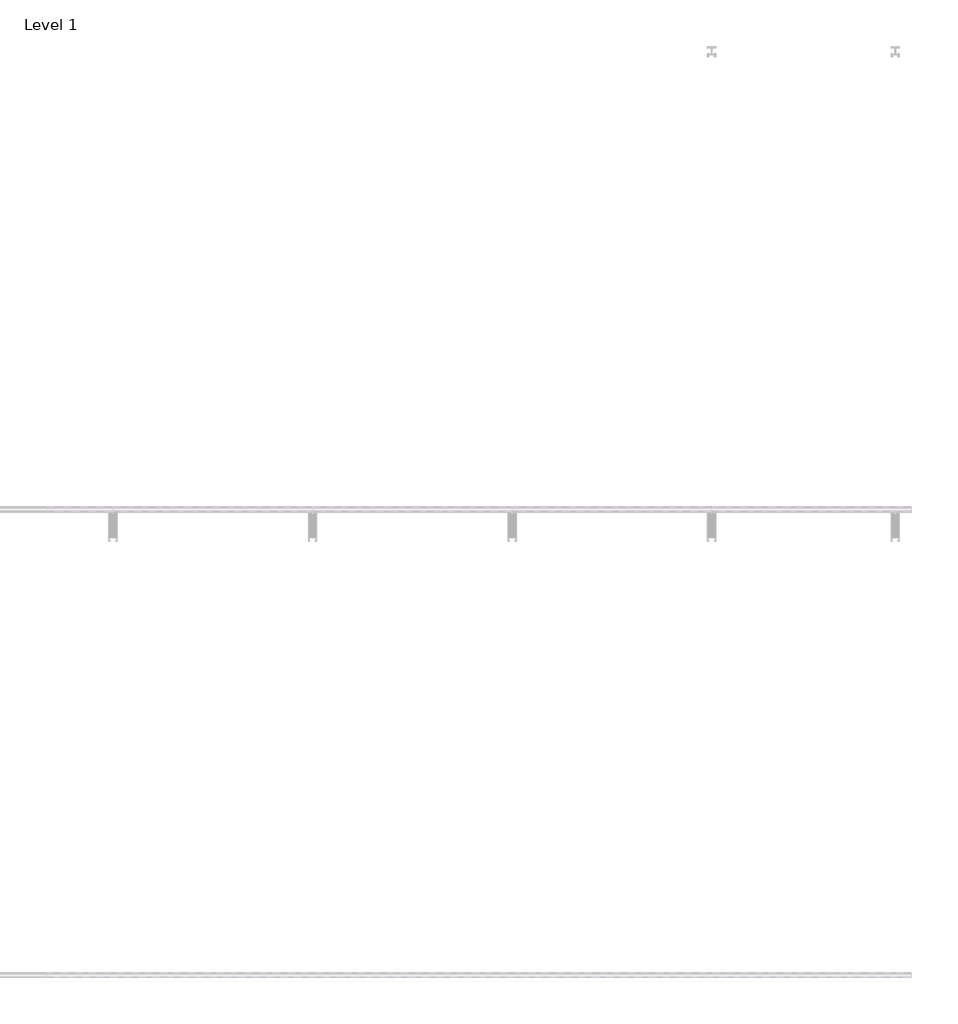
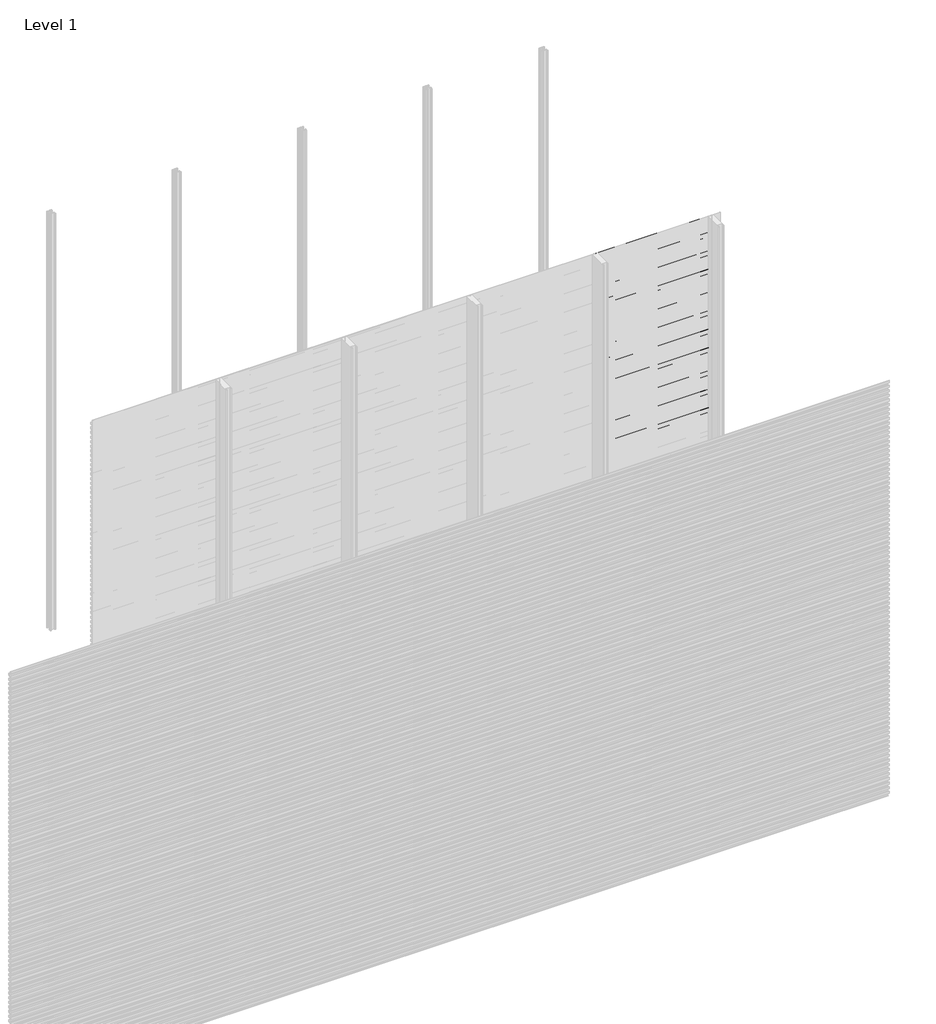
# One storey, part 21 of 96: 77 proxies.
"""IFC4 building model written with IfcOpenShell, lengths in millimetres."""

from ifc_helpers import new_model, si_unit, frame, origin, place, context, project, spatial, polyline, outline, extrude, element, save

model = new_model("IFC4")

# Units and contexts
model_context = context("Model", 3, world=origin())
ifc_project = project(units=[si_unit("LENGTHUNIT", "METRE", prefix="MILLI")], contexts=[model_context])

# Site, building, storey
site = spatial("IfcSite", under=ifc_project)
building = spatial("IfcBuilding", under=site)
storey = spatial("IfcBuildingStorey", under=building, Name="Level 1", Elevation=0.0)

# Proxies
placement = place(None, origin())
element("IfcBuildingElementProxy", 1, Name="Wall Sweeps", at=placement, inside=storey, context=model_context, shape_type="SweptSolid", body=[
    extrude(outline(polyline([(-47977.6, 1073.6655033), (-47977.6, 1059.3779188), (-47982.4114965, 1056.6), (-47982.4114965, 1057.8701706), (-47978.85, 1059.9264016), (-47978.85, 1072.9437382), (-47998.0, 1084.0000799), (-47998.0, 1098.9), (-47996.75, 1098.9), (-47996.75, 1084.7217609), (-47977.6, 1073.6655033)])), frame((4285.7142857, 0.0, 0.0), z_axis=(1.0, 0.0, 0.0), x_axis=(0.0, 1.0, 0.0)), (0.0, 0.0, 1.0), 857.1428571),
])
element("IfcBuildingElementProxy", 2, Name="Wall Sweeps", at=placement, inside=storey, context=model_context, shape_type="SweptSolid", body=[
    extrude(outline(polyline([(-47977.6, 1040.3655033), (-47977.6, 1026.0779188), (-47982.4114965, 1023.3), (-47982.4114965, 1024.5701706), (-47978.85, 1026.6264016), (-47978.85, 1039.6437382), (-47998.0, 1050.7000799), (-47998.0, 1065.6), (-47996.75, 1065.6), (-47996.75, 1051.4217609), (-47977.6, 1040.3655033)])), frame((4285.7142857, 0.0, 0.0), z_axis=(1.0, 0.0, 0.0), x_axis=(0.0, 1.0, 0.0)), (0.0, 0.0, 1.0), 857.1428571),
])
element("IfcBuildingElementProxy", 3, Name="Wall Sweeps", at=placement, inside=storey, context=model_context, shape_type="SweptSolid", body=[
    extrude(outline(polyline([(-47977.6, 1007.0655033), (-47977.6, 992.7779188), (-47982.4114965, 990.0), (-47982.4114965, 991.2701706), (-47978.85, 993.3264016), (-47978.85, 1006.3437382), (-47998.0, 1017.4000799), (-47998.0, 1032.3), (-47996.75, 1032.3), (-47996.75, 1018.1217609), (-47977.6, 1007.0655033)])), frame((4285.7142857, 0.0, 0.0), z_axis=(1.0, 0.0, 0.0), x_axis=(0.0, 1.0, 0.0)), (0.0, 0.0, 1.0), 857.1428571),
])
element("IfcBuildingElementProxy", 4, Name="Wall Sweeps", at=placement, inside=storey, context=model_context, shape_type="SweptSolid", body=[
    extrude(outline(polyline([(-47977.6, 973.7655033), (-47977.6, 959.4779188), (-47982.4114965, 956.7), (-47982.4114965, 957.9701706), (-47978.85, 960.0264016), (-47978.85, 973.0437382), (-47998.0, 984.1000799), (-47998.0, 999.0), (-47996.75, 999.0), (-47996.75, 984.8217609), (-47977.6, 973.7655033)])), frame((4285.7142857, 0.0, 0.0), z_axis=(1.0, 0.0, 0.0), x_axis=(0.0, 1.0, 0.0)), (0.0, 0.0, 1.0), 857.1428571),
])
element("IfcBuildingElementProxy", 5, Name="Wall Sweeps", at=placement, inside=storey, context=model_context, shape_type="SweptSolid", body=[
    extrude(outline(polyline([(-47977.6, 940.4655033), (-47977.6, 926.1779188), (-47982.4114965, 923.4), (-47982.4114965, 924.6701706), (-47978.85, 926.7264016), (-47978.85, 939.7437382), (-47998.0, 950.8000799), (-47998.0, 965.7), (-47996.75, 965.7), (-47996.75, 951.5217609), (-47977.6, 940.4655033)])), frame((4285.7142857, 0.0, 0.0), z_axis=(1.0, 0.0, 0.0), x_axis=(0.0, 1.0, 0.0)), (0.0, 0.0, 1.0), 857.1428571),
])
element("IfcBuildingElementProxy", 6, Name="Wall Sweeps", at=placement, inside=storey, context=model_context, shape_type="SweptSolid", body=[
    extrude(outline(polyline([(-47977.6, 907.1655033), (-47977.6, 892.8779188), (-47982.4114965, 890.1), (-47982.4114965, 891.3701706), (-47978.85, 893.4264016), (-47978.85, 906.4437382), (-47998.0, 917.5000799), (-47998.0, 932.4), (-47996.75, 932.4), (-47996.75, 918.2217609), (-47977.6, 907.1655033)])), frame((4285.7142857, 0.0, 0.0), z_axis=(1.0, 0.0, 0.0), x_axis=(0.0, 1.0, 0.0)), (0.0, 0.0, 1.0), 857.1428571),
])
element("IfcBuildingElementProxy", 7, Name="Wall Sweeps", at=placement, inside=storey, context=model_context, shape_type="SweptSolid", body=[
    extrude(outline(polyline([(-47977.6, 873.8655033), (-47977.6, 859.5779188), (-47982.4114965, 856.8), (-47982.4114965, 858.0701706), (-47978.85, 860.1264016), (-47978.85, 873.1437382), (-47998.0, 884.2000799), (-47998.0, 899.1), (-47996.75, 899.1), (-47996.75, 884.9217609), (-47977.6, 873.8655033)])), frame((4285.7142857, 0.0, 0.0), z_axis=(1.0, 0.0, 0.0), x_axis=(0.0, 1.0, 0.0)), (0.0, 0.0, 1.0), 857.1428571),
])
element("IfcBuildingElementProxy", 8, Name="Wall Sweeps", at=placement, inside=storey, context=model_context, shape_type="SweptSolid", body=[
    extrude(outline(polyline([(-47977.6, 840.5655033), (-47977.6, 826.2779188), (-47982.4114965, 823.5), (-47982.4114965, 824.7701706), (-47978.85, 826.8264016), (-47978.85, 839.8437382), (-47998.0, 850.9000799), (-47998.0, 865.8), (-47996.75, 865.8), (-47996.75, 851.6217609), (-47977.6, 840.5655033)])), frame((4285.7142857, 0.0, 0.0), z_axis=(1.0, 0.0, 0.0), x_axis=(0.0, 1.0, 0.0)), (0.0, 0.0, 1.0), 857.1428571),
])
element("IfcBuildingElementProxy", 9, Name="Wall Sweeps", at=placement, inside=storey, context=model_context, shape_type="SweptSolid", body=[
    extrude(outline(polyline([(-47977.6, 807.2655033), (-47977.6, 792.9779188), (-47982.4114965, 790.2), (-47982.4114965, 791.4701706), (-47978.85, 793.5264016), (-47978.85, 806.5437382), (-47998.0, 817.6000799), (-47998.0, 832.5), (-47996.75, 832.5), (-47996.75, 818.3217609), (-47977.6, 807.2655033)])), frame((4285.7142857, 0.0, 0.0), z_axis=(1.0, 0.0, 0.0), x_axis=(0.0, 1.0, 0.0)), (0.0, 0.0, 1.0), 857.1428571),
])
element("IfcBuildingElementProxy", 10, Name="Wall Sweeps", at=placement, inside=storey, context=model_context, shape_type="SweptSolid", body=[
    extrude(outline(polyline([(-47977.6, 773.9655033), (-47977.6, 759.6779188), (-47982.4114965, 756.9), (-47982.4114965, 758.1701706), (-47978.85, 760.2264016), (-47978.85, 773.2437382), (-47998.0, 784.3000799), (-47998.0, 799.2), (-47996.75, 799.2), (-47996.75, 785.0217609), (-47977.6, 773.9655033)])), frame((4285.7142857, 0.0, 0.0), z_axis=(1.0, 0.0, 0.0), x_axis=(0.0, 1.0, 0.0)), (0.0, 0.0, 1.0), 857.1428571),
])
element("IfcBuildingElementProxy", 11, Name="Wall Sweeps", at=placement, inside=storey, context=model_context, shape_type="SweptSolid", body=[
    extrude(outline(polyline([(-47977.6, 740.6655033), (-47977.6, 726.3779188), (-47982.4114965, 723.6), (-47982.4114965, 724.8701706), (-47978.85, 726.9264016), (-47978.85, 739.9437382), (-47998.0, 751.0000799), (-47998.0, 765.9), (-47996.75, 765.9), (-47996.75, 751.7217609), (-47977.6, 740.6655033)])), frame((4285.7142857, 0.0, 0.0), z_axis=(1.0, 0.0, 0.0), x_axis=(0.0, 1.0, 0.0)), (0.0, 0.0, 1.0), 857.1428571),
])
element("IfcBuildingElementProxy", 12, Name="Wall Sweeps", at=placement, inside=storey, context=model_context, shape_type="SweptSolid", body=[
    extrude(outline(polyline([(-47977.6, 707.3655033), (-47977.6, 693.0779188), (-47982.4114965, 690.3), (-47982.4114965, 691.5701706), (-47978.85, 693.6264016), (-47978.85, 706.6437382), (-47998.0, 717.7000799), (-47998.0, 732.6), (-47996.75, 732.6), (-47996.75, 718.4217609), (-47977.6, 707.3655033)])), frame((4285.7142857, 0.0, 0.0), z_axis=(1.0, 0.0, 0.0), x_axis=(0.0, 1.0, 0.0)), (0.0, 0.0, 1.0), 857.1428571),
])
element("IfcBuildingElementProxy", 13, Name="Wall Sweeps", at=placement, inside=storey, context=model_context, shape_type="SweptSolid", body=[
    extrude(outline(polyline([(-47977.6, 674.0655033), (-47977.6, 659.7779188), (-47982.4114965, 657.0), (-47982.4114965, 658.2701706), (-47978.85, 660.3264016), (-47978.85, 673.3437382), (-47998.0, 684.4000799), (-47998.0, 699.3), (-47996.75, 699.3), (-47996.75, 685.1217609), (-47977.6, 674.0655033)])), frame((4285.7142857, 0.0, 0.0), z_axis=(1.0, 0.0, 0.0), x_axis=(0.0, 1.0, 0.0)), (0.0, 0.0, 1.0), 857.1428571),
])
element("IfcBuildingElementProxy", 14, Name="Wall Sweeps", at=placement, inside=storey, context=model_context, shape_type="SweptSolid", body=[
    extrude(outline(polyline([(-47977.6, 640.7655033), (-47977.6, 626.4779188), (-47982.4114965, 623.7), (-47982.4114965, 624.9701706), (-47978.85, 627.0264016), (-47978.85, 640.0437382), (-47998.0, 651.1000799), (-47998.0, 666.0), (-47996.75, 666.0), (-47996.75, 651.8217609), (-47977.6, 640.7655033)])), frame((4285.7142857, 0.0, 0.0), z_axis=(1.0, 0.0, 0.0), x_axis=(0.0, 1.0, 0.0)), (0.0, 0.0, 1.0), 857.1428571),
])
element("IfcBuildingElementProxy", 15, Name="Wall Sweeps", at=placement, inside=storey, context=model_context, shape_type="SweptSolid", body=[
    extrude(outline(polyline([(-47977.6, 607.4655033), (-47977.6, 593.1779188), (-47982.4114965, 590.4), (-47982.4114965, 591.6701706), (-47978.85, 593.7264016), (-47978.85, 606.7437382), (-47998.0, 617.8000799), (-47998.0, 632.7), (-47996.75, 632.7), (-47996.75, 618.5217609), (-47977.6, 607.4655033)])), frame((4285.7142857, 0.0, 0.0), z_axis=(1.0, 0.0, 0.0), x_axis=(0.0, 1.0, 0.0)), (0.0, 0.0, 1.0), 857.1428571),
])
element("IfcBuildingElementProxy", 16, Name="Wall Sweeps", at=placement, inside=storey, context=model_context, shape_type="SweptSolid", body=[
    extrude(outline(polyline([(-47977.6, 574.1655033), (-47977.6, 559.8779188), (-47982.4114965, 557.1), (-47982.4114965, 558.3701706), (-47978.85, 560.4264016), (-47978.85, 573.4437382), (-47998.0, 584.5000799), (-47998.0, 599.4), (-47996.75, 599.4), (-47996.75, 585.2217609), (-47977.6, 574.1655033)])), frame((4285.7142857, 0.0, 0.0), z_axis=(1.0, 0.0, 0.0), x_axis=(0.0, 1.0, 0.0)), (0.0, 0.0, 1.0), 857.1428571),
])
element("IfcBuildingElementProxy", 17, Name="Wall Sweeps", at=placement, inside=storey, context=model_context, shape_type="SweptSolid", body=[
    extrude(outline(polyline([(-47977.6, 540.8655033), (-47977.6, 526.5779188), (-47982.4114965, 523.8), (-47982.4114965, 525.0701706), (-47978.85, 527.1264016), (-47978.85, 540.1437382), (-47998.0, 551.2000799), (-47998.0, 566.1), (-47996.75, 566.1), (-47996.75, 551.9217609), (-47977.6, 540.8655033)])), frame((4285.7142857, 0.0, 0.0), z_axis=(1.0, 0.0, 0.0), x_axis=(0.0, 1.0, 0.0)), (0.0, 0.0, 1.0), 857.1428571),
])
element("IfcBuildingElementProxy", 18, Name="Wall Sweeps", at=placement, inside=storey, context=model_context, shape_type="SweptSolid", body=[
    extrude(outline(polyline([(-47977.6, 507.5655033), (-47977.6, 493.2779188), (-47982.4114965, 490.5), (-47982.4114965, 491.7701706), (-47978.85, 493.8264016), (-47978.85, 506.8437382), (-47998.0, 517.9000799), (-47998.0, 532.8), (-47996.75, 532.8), (-47996.75, 518.6217609), (-47977.6, 507.5655033)])), frame((4285.7142857, 0.0, 0.0), z_axis=(1.0, 0.0, 0.0), x_axis=(0.0, 1.0, 0.0)), (0.0, 0.0, 1.0), 857.1428571),
])
element("IfcBuildingElementProxy", 19, Name="Wall Sweeps", at=placement, inside=storey, context=model_context, shape_type="SweptSolid", body=[
    extrude(outline(polyline([(-47977.6, 474.2655033), (-47977.6, 459.9779188), (-47982.4114965, 457.2), (-47982.4114965, 458.4701706), (-47978.85, 460.5264016), (-47978.85, 473.5437382), (-47998.0, 484.6000799), (-47998.0, 499.5), (-47996.75, 499.5), (-47996.75, 485.3217609), (-47977.6, 474.2655033)])), frame((4285.7142857, 0.0, 0.0), z_axis=(1.0, 0.0, 0.0), x_axis=(0.0, 1.0, 0.0)), (0.0, 0.0, 1.0), 857.1428571),
])
element("IfcBuildingElementProxy", 20, Name="Wall Sweeps", at=placement, inside=storey, context=model_context, shape_type="SweptSolid", body=[
    extrude(outline(polyline([(-47977.6, 440.9655033), (-47977.6, 426.6779188), (-47982.4114965, 423.9), (-47982.4114965, 425.1701706), (-47978.85, 427.2264016), (-47978.85, 440.2437382), (-47998.0, 451.3000799), (-47998.0, 466.2), (-47996.75, 466.2), (-47996.75, 452.0217609), (-47977.6, 440.9655033)])), frame((4285.7142857, 0.0, 0.0), z_axis=(1.0, 0.0, 0.0), x_axis=(0.0, 1.0, 0.0)), (0.0, 0.0, 1.0), 857.1428571),
])
element("IfcBuildingElementProxy", 21, Name="Wall Sweeps", at=placement, inside=storey, context=model_context, shape_type="SweptSolid", body=[
    extrude(outline(polyline([(-47977.6, 407.6655033), (-47977.6, 393.3779188), (-47982.4114965, 390.6), (-47982.4114965, 391.8701706), (-47978.85, 393.9264016), (-47978.85, 406.9437382), (-47998.0, 418.0000799), (-47998.0, 432.9), (-47996.75, 432.9), (-47996.75, 418.7217609), (-47977.6, 407.6655033)])), frame((4285.7142857, 0.0, 0.0), z_axis=(1.0, 0.0, 0.0), x_axis=(0.0, 1.0, 0.0)), (0.0, 0.0, 1.0), 857.1428571),
])
element("IfcBuildingElementProxy", 22, Name="Wall Sweeps", at=placement, inside=storey, context=model_context, shape_type="SweptSolid", body=[
    extrude(outline(polyline([(-47977.6, 374.3655033), (-47977.6, 360.0779188), (-47982.4114965, 357.3), (-47982.4114965, 358.5701706), (-47978.85, 360.6264016), (-47978.85, 373.6437382), (-47998.0, 384.7000799), (-47998.0, 399.6), (-47996.75, 399.6), (-47996.75, 385.4217609), (-47977.6, 374.3655033)])), frame((4285.7142857, 0.0, 0.0), z_axis=(1.0, 0.0, 0.0), x_axis=(0.0, 1.0, 0.0)), (0.0, 0.0, 1.0), 857.1428571),
])
element("IfcBuildingElementProxy", 23, Name="Wall Sweeps", at=placement, inside=storey, context=model_context, shape_type="SweptSolid", body=[
    extrude(outline(polyline([(-47977.6, 341.0655033), (-47977.6, 326.7779188), (-47982.4114965, 324.0), (-47982.4114965, 325.2701706), (-47978.85, 327.3264016), (-47978.85, 340.3437382), (-47998.0, 351.4000799), (-47998.0, 366.3), (-47996.75, 366.3), (-47996.75, 352.1217609), (-47977.6, 341.0655033)])), frame((4285.7142857, 0.0, 0.0), z_axis=(1.0, 0.0, 0.0), x_axis=(0.0, 1.0, 0.0)), (0.0, 0.0, 1.0), 857.1428571),
])
element("IfcBuildingElementProxy", 24, Name="Wall Sweeps", at=placement, inside=storey, context=model_context, shape_type="SweptSolid", body=[
    extrude(outline(polyline([(-47977.6, 307.7655033), (-47977.6, 293.4779188), (-47982.4114965, 290.7), (-47982.4114965, 291.9701706), (-47978.85, 294.0264016), (-47978.85, 307.0437382), (-47998.0, 318.1000799), (-47998.0, 333.0), (-47996.75, 333.0), (-47996.75, 318.8217609), (-47977.6, 307.7655033)])), frame((4285.7142857, 0.0, 0.0), z_axis=(1.0, 0.0, 0.0), x_axis=(0.0, 1.0, 0.0)), (0.0, 0.0, 1.0), 857.1428571),
])
element("IfcBuildingElementProxy", 25, Name="Wall Sweeps", at=placement, inside=storey, context=model_context, shape_type="SweptSolid", body=[
    extrude(outline(polyline([(-47977.6, 274.4655033), (-47977.6, 260.1779188), (-47982.4114965, 257.4), (-47982.4114965, 258.6701706), (-47978.85, 260.7264016), (-47978.85, 273.7437382), (-47998.0, 284.8000799), (-47998.0, 299.7), (-47996.75, 299.7), (-47996.75, 285.5217609), (-47977.6, 274.4655033)])), frame((4285.7142857, 0.0, 0.0), z_axis=(1.0, 0.0, 0.0), x_axis=(0.0, 1.0, 0.0)), (0.0, 0.0, 1.0), 857.1428571),
])
element("IfcBuildingElementProxy", 26, Name="Wall Sweeps", at=placement, inside=storey, context=model_context, shape_type="SweptSolid", body=[
    extrude(outline(polyline([(-47977.6, 241.1655033), (-47977.6, 226.8779188), (-47982.4114965, 224.1), (-47982.4114965, 225.3701706), (-47978.85, 227.4264016), (-47978.85, 240.4437382), (-47998.0, 251.5000799), (-47998.0, 266.4), (-47996.75, 266.4), (-47996.75, 252.2217609), (-47977.6, 241.1655033)])), frame((4285.7142857, 0.0, 0.0), z_axis=(1.0, 0.0, 0.0), x_axis=(0.0, 1.0, 0.0)), (0.0, 0.0, 1.0), 857.1428571),
])
element("IfcBuildingElementProxy", 27, Name="Wall Sweeps", at=placement, inside=storey, context=model_context, shape_type="SweptSolid", body=[
    extrude(outline(polyline([(-47977.6, 207.8655033), (-47977.6, 193.5779188), (-47982.4114965, 190.8), (-47982.4114965, 192.0701706), (-47978.85, 194.1264016), (-47978.85, 207.1437382), (-47998.0, 218.2000799), (-47998.0, 233.1), (-47996.75, 233.1), (-47996.75, 218.9217609), (-47977.6, 207.8655033)])), frame((4285.7142857, 0.0, 0.0), z_axis=(1.0, 0.0, 0.0), x_axis=(0.0, 1.0, 0.0)), (0.0, 0.0, 1.0), 857.1428571),
])
element("IfcBuildingElementProxy", 28, Name="Wall Sweeps", at=placement, inside=storey, context=model_context, shape_type="SweptSolid", body=[
    extrude(outline(polyline([(-47977.6, 174.5655033), (-47977.6, 160.2779188), (-47982.4114965, 157.5), (-47982.4114965, 158.7701706), (-47978.85, 160.8264016), (-47978.85, 173.8437382), (-47998.0, 184.9000799), (-47998.0, 199.8), (-47996.75, 199.8), (-47996.75, 185.6217609), (-47977.6, 174.5655033)])), frame((4285.7142857, 0.0, 0.0), z_axis=(1.0, 0.0, 0.0), x_axis=(0.0, 1.0, 0.0)), (0.0, 0.0, 1.0), 857.1428571),
])
element("IfcBuildingElementProxy", 29, Name="Wall Sweeps", at=placement, inside=storey, context=model_context, shape_type="SweptSolid", body=[
    extrude(outline(polyline([(-47977.6, 141.2655033), (-47977.6, 126.9779188), (-47982.4114965, 124.2), (-47982.4114965, 125.4701706), (-47978.85, 127.5264016), (-47978.85, 140.5437382), (-47998.0, 151.6000799), (-47998.0, 166.5), (-47996.75, 166.5), (-47996.75, 152.3217609), (-47977.6, 141.2655033)])), frame((4285.7142857, 0.0, 0.0), z_axis=(1.0, 0.0, 0.0), x_axis=(0.0, 1.0, 0.0)), (0.0, 0.0, 1.0), 857.1428571),
])
element("IfcBuildingElementProxy", 30, Name="Wall Sweeps", at=placement, inside=storey, context=model_context, shape_type="SweptSolid", body=[
    extrude(outline(polyline([(-47977.6, 107.9655033), (-47977.6, 93.6779188), (-47982.4114965, 90.9), (-47982.4114965, 92.1701706), (-47978.85, 94.2264016), (-47978.85, 107.2437382), (-47998.0, 118.3000799), (-47998.0, 133.2), (-47996.75, 133.2), (-47996.75, 119.0217609), (-47977.6, 107.9655033)])), frame((4285.7142857, 0.0, 0.0), z_axis=(1.0, 0.0, 0.0), x_axis=(0.0, 1.0, 0.0)), (0.0, 0.0, 1.0), 857.1428571),
])
element("IfcBuildingElementProxy", 31, Name="Wall Sweeps", at=placement, inside=storey, context=model_context, shape_type="SweptSolid", body=[
    extrude(outline(polyline([(-47977.6, 74.6655033), (-47977.6, 60.3779188), (-47982.4114965, 57.6), (-47982.4114965, 58.8701706), (-47978.85, 60.9264016), (-47978.85, 73.9437382), (-47998.0, 85.0000799), (-47998.0, 99.9), (-47996.75, 99.9), (-47996.75, 85.7217609), (-47977.6, 74.6655033)])), frame((4285.7142857, 0.0, 0.0), z_axis=(1.0, 0.0, 0.0), x_axis=(0.0, 1.0, 0.0)), (0.0, 0.0, 1.0), 857.1428571),
])
element("IfcBuildingElementProxy", 32, Name="Wall Sweeps", at=placement, inside=storey, context=model_context, shape_type="SweptSolid", body=[
    extrude(outline(polyline([(-47977.6, 41.3655033), (-47977.6, 27.0779188), (-47982.4114965, 24.3), (-47982.4114965, 25.5701706), (-47978.85, 27.6264016), (-47978.85, 40.6437382), (-47998.0, 51.7000799), (-47998.0, 66.6), (-47996.75, 66.6), (-47996.75, 52.4217609), (-47977.6, 41.3655033)])), frame((4285.7142857, 0.0, 0.0), z_axis=(1.0, 0.0, 0.0), x_axis=(0.0, 1.0, 0.0)), (0.0, 0.0, 1.0), 857.1428571),
])
element("IfcBuildingElementProxy", 33, Name="Wall Sweeps", at=placement, inside=storey, context=model_context, shape_type="SweptSolid", body=[
    extrude(outline(polyline([(-47977.6, 8.0655033), (-47977.6, -6.2220812), (-47982.4114965, -9.0), (-47982.4114965, -7.7298294), (-47978.85, -5.6735984), (-47978.85, 7.3437382), (-47998.0, 18.4000799), (-47998.0, 33.3), (-47996.75, 33.3), (-47996.75, 19.1217609), (-47977.6, 8.0655033)])), frame((4285.7142857, 0.0, 0.0), z_axis=(1.0, 0.0, 0.0), x_axis=(0.0, 1.0, 0.0)), (0.0, 0.0, 1.0), 857.1428571),
])
element("IfcBuildingElementProxy", 34, Name="Wall Sweeps", at=placement, inside=storey, context=model_context, shape_type="SweptSolid", body=[
    extrude(outline(polyline([(-47977.6, 2971.7655033), (-47977.6, 2957.4779188), (-47982.4114965, 2954.7), (-47982.4114965, 2955.9701706), (-47978.85, 2958.0264016), (-47978.85, 2971.0437382), (-47998.0, 2982.1000799), (-47998.0, 2997.0), (-47996.75, 2997.0), (-47996.75, 2982.8217609), (-47977.6, 2971.7655033)])), frame((5142.8571429, 0.0, 0.0), z_axis=(1.0, 0.0, 0.0), x_axis=(0.0, 1.0, 0.0)), (0.0, 0.0, 1.0), 857.1428571),
])
element("IfcBuildingElementProxy", 35, Name="Wall Sweeps", at=placement, inside=storey, context=model_context, shape_type="SweptSolid", body=[
    extrude(outline(polyline([(-47977.6, 2938.4655033), (-47977.6, 2924.1779188), (-47982.4114965, 2921.4), (-47982.4114965, 2922.6701706), (-47978.85, 2924.7264016), (-47978.85, 2937.7437382), (-47998.0, 2948.8000799), (-47998.0, 2963.7), (-47996.75, 2963.7), (-47996.75, 2949.5217609), (-47977.6, 2938.4655033)])), frame((5142.8571429, 0.0, 0.0), z_axis=(1.0, 0.0, 0.0), x_axis=(0.0, 1.0, 0.0)), (0.0, 0.0, 1.0), 857.1428571),
])
element("IfcBuildingElementProxy", 36, Name="Wall Sweeps", at=placement, inside=storey, context=model_context, shape_type="SweptSolid", body=[
    extrude(outline(polyline([(-47977.6, 2905.1655033), (-47977.6, 2890.8779188), (-47982.4114965, 2888.1), (-47982.4114965, 2889.3701706), (-47978.85, 2891.4264016), (-47978.85, 2904.4437382), (-47998.0, 2915.5000799), (-47998.0, 2930.4), (-47996.75, 2930.4), (-47996.75, 2916.2217609), (-47977.6, 2905.1655033)])), frame((5142.8571429, 0.0, 0.0), z_axis=(1.0, 0.0, 0.0), x_axis=(0.0, 1.0, 0.0)), (0.0, 0.0, 1.0), 857.1428571),
])
element("IfcBuildingElementProxy", 37, Name="Wall Sweeps", at=placement, inside=storey, context=model_context, shape_type="SweptSolid", body=[
    extrude(outline(polyline([(-47977.6, 2871.8655033), (-47977.6, 2857.5779188), (-47982.4114965, 2854.8), (-47982.4114965, 2856.0701706), (-47978.85, 2858.1264016), (-47978.85, 2871.1437382), (-47998.0, 2882.2000799), (-47998.0, 2897.1), (-47996.75, 2897.1), (-47996.75, 2882.9217609), (-47977.6, 2871.8655033)])), frame((5142.8571429, 0.0, 0.0), z_axis=(1.0, 0.0, 0.0), x_axis=(0.0, 1.0, 0.0)), (0.0, 0.0, 1.0), 857.1428571),
])
element("IfcBuildingElementProxy", 38, Name="Wall Sweeps", at=placement, inside=storey, context=model_context, shape_type="SweptSolid", body=[
    extrude(outline(polyline([(-47977.6, 2838.5655033), (-47977.6, 2824.2779188), (-47982.4114965, 2821.5), (-47982.4114965, 2822.7701706), (-47978.85, 2824.8264016), (-47978.85, 2837.8437382), (-47998.0, 2848.9000799), (-47998.0, 2863.8), (-47996.75, 2863.8), (-47996.75, 2849.6217609), (-47977.6, 2838.5655033)])), frame((5142.8571429, 0.0, 0.0), z_axis=(1.0, 0.0, 0.0), x_axis=(0.0, 1.0, 0.0)), (0.0, 0.0, 1.0), 857.1428571),
])
element("IfcBuildingElementProxy", 39, Name="Wall Sweeps", at=placement, inside=storey, context=model_context, shape_type="SweptSolid", body=[
    extrude(outline(polyline([(-47977.6, 2805.2655033), (-47977.6, 2790.9779188), (-47982.4114965, 2788.2), (-47982.4114965, 2789.4701706), (-47978.85, 2791.5264016), (-47978.85, 2804.5437382), (-47998.0, 2815.6000799), (-47998.0, 2830.5), (-47996.75, 2830.5), (-47996.75, 2816.3217609), (-47977.6, 2805.2655033)])), frame((5142.8571429, 0.0, 0.0), z_axis=(1.0, 0.0, 0.0), x_axis=(0.0, 1.0, 0.0)), (0.0, 0.0, 1.0), 857.1428571),
])
element("IfcBuildingElementProxy", 40, Name="Wall Sweeps", at=placement, inside=storey, context=model_context, shape_type="SweptSolid", body=[
    extrude(outline(polyline([(-47977.6, 2771.9655033), (-47977.6, 2757.6779188), (-47982.4114965, 2754.9), (-47982.4114965, 2756.1701706), (-47978.85, 2758.2264016), (-47978.85, 2771.2437382), (-47998.0, 2782.3000799), (-47998.0, 2797.2), (-47996.75, 2797.2), (-47996.75, 2783.0217609), (-47977.6, 2771.9655033)])), frame((5142.8571429, 0.0, 0.0), z_axis=(1.0, 0.0, 0.0), x_axis=(0.0, 1.0, 0.0)), (0.0, 0.0, 1.0), 857.1428571),
])
element("IfcBuildingElementProxy", 41, Name="Wall Sweeps", at=placement, inside=storey, context=model_context, shape_type="SweptSolid", body=[
    extrude(outline(polyline([(-47977.6, 2738.6655033), (-47977.6, 2724.3779188), (-47982.4114965, 2721.6), (-47982.4114965, 2722.8701706), (-47978.85, 2724.9264016), (-47978.85, 2737.9437382), (-47998.0, 2749.0000799), (-47998.0, 2763.9), (-47996.75, 2763.9), (-47996.75, 2749.7217609), (-47977.6, 2738.6655033)])), frame((5142.8571429, 0.0, 0.0), z_axis=(1.0, 0.0, 0.0), x_axis=(0.0, 1.0, 0.0)), (0.0, 0.0, 1.0), 857.1428571),
])
element("IfcBuildingElementProxy", 42, Name="Wall Sweeps", at=placement, inside=storey, context=model_context, shape_type="SweptSolid", body=[
    extrude(outline(polyline([(-47977.6, 2705.3655033), (-47977.6, 2691.0779188), (-47982.4114965, 2688.3), (-47982.4114965, 2689.5701706), (-47978.85, 2691.6264016), (-47978.85, 2704.6437382), (-47998.0, 2715.7000799), (-47998.0, 2730.6), (-47996.75, 2730.6), (-47996.75, 2716.4217609), (-47977.6, 2705.3655033)])), frame((5142.8571429, 0.0, 0.0), z_axis=(1.0, 0.0, 0.0), x_axis=(0.0, 1.0, 0.0)), (0.0, 0.0, 1.0), 857.1428571),
])
element("IfcBuildingElementProxy", 43, Name="Wall Sweeps", at=placement, inside=storey, context=model_context, shape_type="SweptSolid", body=[
    extrude(outline(polyline([(-47977.6, 2672.0655033), (-47977.6, 2657.7779188), (-47982.4114965, 2655.0), (-47982.4114965, 2656.2701706), (-47978.85, 2658.3264016), (-47978.85, 2671.3437382), (-47998.0, 2682.4000799), (-47998.0, 2697.3), (-47996.75, 2697.3), (-47996.75, 2683.1217609), (-47977.6, 2672.0655033)])), frame((5142.8571429, 0.0, 0.0), z_axis=(1.0, 0.0, 0.0), x_axis=(0.0, 1.0, 0.0)), (0.0, 0.0, 1.0), 857.1428571),
])
element("IfcBuildingElementProxy", 44, Name="Wall Sweeps", at=placement, inside=storey, context=model_context, shape_type="SweptSolid", body=[
    extrude(outline(polyline([(-47977.6, 2638.7655033), (-47977.6, 2624.4779188), (-47982.4114965, 2621.7), (-47982.4114965, 2622.9701706), (-47978.85, 2625.0264016), (-47978.85, 2638.0437382), (-47998.0, 2649.1000799), (-47998.0, 2664.0), (-47996.75, 2664.0), (-47996.75, 2649.8217609), (-47977.6, 2638.7655033)])), frame((5142.8571429, 0.0, 0.0), z_axis=(1.0, 0.0, 0.0), x_axis=(0.0, 1.0, 0.0)), (0.0, 0.0, 1.0), 857.1428571),
])
element("IfcBuildingElementProxy", 45, Name="Wall Sweeps", at=placement, inside=storey, context=model_context, shape_type="SweptSolid", body=[
    extrude(outline(polyline([(-47977.6, 2605.4655033), (-47977.6, 2591.1779188), (-47982.4114965, 2588.4), (-47982.4114965, 2589.6701706), (-47978.85, 2591.7264016), (-47978.85, 2604.7437382), (-47998.0, 2615.8000799), (-47998.0, 2630.7), (-47996.75, 2630.7), (-47996.75, 2616.5217609), (-47977.6, 2605.4655033)])), frame((5142.8571429, 0.0, 0.0), z_axis=(1.0, 0.0, 0.0), x_axis=(0.0, 1.0, 0.0)), (0.0, 0.0, 1.0), 857.1428571),
])
element("IfcBuildingElementProxy", 46, Name="Wall Sweeps", at=placement, inside=storey, context=model_context, shape_type="SweptSolid", body=[
    extrude(outline(polyline([(-47977.6, 2572.1655033), (-47977.6, 2557.8779188), (-47982.4114965, 2555.1), (-47982.4114965, 2556.3701706), (-47978.85, 2558.4264016), (-47978.85, 2571.4437382), (-47998.0, 2582.5000799), (-47998.0, 2597.4), (-47996.75, 2597.4), (-47996.75, 2583.2217609), (-47977.6, 2572.1655033)])), frame((5142.8571429, 0.0, 0.0), z_axis=(1.0, 0.0, 0.0), x_axis=(0.0, 1.0, 0.0)), (0.0, 0.0, 1.0), 857.1428571),
])
element("IfcBuildingElementProxy", 47, Name="Wall Sweeps", at=placement, inside=storey, context=model_context, shape_type="SweptSolid", body=[
    extrude(outline(polyline([(-47977.6, 2538.8655033), (-47977.6, 2524.5779188), (-47982.4114965, 2521.8), (-47982.4114965, 2523.0701706), (-47978.85, 2525.1264016), (-47978.85, 2538.1437382), (-47998.0, 2549.2000799), (-47998.0, 2564.1), (-47996.75, 2564.1), (-47996.75, 2549.9217609), (-47977.6, 2538.8655033)])), frame((5142.8571429, 0.0, 0.0), z_axis=(1.0, 0.0, 0.0), x_axis=(0.0, 1.0, 0.0)), (0.0, 0.0, 1.0), 857.1428571),
])
element("IfcBuildingElementProxy", 48, Name="Wall Sweeps", at=placement, inside=storey, context=model_context, shape_type="SweptSolid", body=[
    extrude(outline(polyline([(-47977.6, 2505.5655033), (-47977.6, 2491.2779188), (-47982.4114965, 2488.5), (-47982.4114965, 2489.7701706), (-47978.85, 2491.8264016), (-47978.85, 2504.8437382), (-47998.0, 2515.9000799), (-47998.0, 2530.8), (-47996.75, 2530.8), (-47996.75, 2516.6217609), (-47977.6, 2505.5655033)])), frame((5142.8571429, 0.0, 0.0), z_axis=(1.0, 0.0, 0.0), x_axis=(0.0, 1.0, 0.0)), (0.0, 0.0, 1.0), 857.1428571),
])
element("IfcBuildingElementProxy", 49, Name="Wall Sweeps", at=placement, inside=storey, context=model_context, shape_type="SweptSolid", body=[
    extrude(outline(polyline([(-47977.6, 2472.2655033), (-47977.6, 2457.9779188), (-47982.4114965, 2455.2), (-47982.4114965, 2456.4701706), (-47978.85, 2458.5264016), (-47978.85, 2471.5437382), (-47998.0, 2482.6000799), (-47998.0, 2497.5), (-47996.75, 2497.5), (-47996.75, 2483.3217609), (-47977.6, 2472.2655033)])), frame((5142.8571429, 0.0, 0.0), z_axis=(1.0, 0.0, 0.0), x_axis=(0.0, 1.0, 0.0)), (0.0, 0.0, 1.0), 857.1428571),
])
element("IfcBuildingElementProxy", 50, Name="Wall Sweeps", at=placement, inside=storey, context=model_context, shape_type="SweptSolid", body=[
    extrude(outline(polyline([(-47977.6, 2438.9655033), (-47977.6, 2424.6779188), (-47982.4114965, 2421.9), (-47982.4114965, 2423.1701706), (-47978.85, 2425.2264016), (-47978.85, 2438.2437382), (-47998.0, 2449.3000799), (-47998.0, 2464.2), (-47996.75, 2464.2), (-47996.75, 2450.0217609), (-47977.6, 2438.9655033)])), frame((5142.8571429, 0.0, 0.0), z_axis=(1.0, 0.0, 0.0), x_axis=(0.0, 1.0, 0.0)), (0.0, 0.0, 1.0), 857.1428571),
])
element("IfcBuildingElementProxy", 51, Name="Wall Sweeps", at=placement, inside=storey, context=model_context, shape_type="SweptSolid", body=[
    extrude(outline(polyline([(-47977.6, 2405.6655033), (-47977.6, 2391.3779188), (-47982.4114965, 2388.6), (-47982.4114965, 2389.8701706), (-47978.85, 2391.9264016), (-47978.85, 2404.9437382), (-47998.0, 2416.0000799), (-47998.0, 2430.9), (-47996.75, 2430.9), (-47996.75, 2416.7217609), (-47977.6, 2405.6655033)])), frame((5142.8571429, 0.0, 0.0), z_axis=(1.0, 0.0, 0.0), x_axis=(0.0, 1.0, 0.0)), (0.0, 0.0, 1.0), 857.1428571),
])
element("IfcBuildingElementProxy", 52, Name="Wall Sweeps", at=placement, inside=storey, context=model_context, shape_type="SweptSolid", body=[
    extrude(outline(polyline([(-47977.6, 2372.3655033), (-47977.6, 2358.0779188), (-47982.4114965, 2355.3), (-47982.4114965, 2356.5701706), (-47978.85, 2358.6264016), (-47978.85, 2371.6437382), (-47998.0, 2382.7000799), (-47998.0, 2397.6), (-47996.75, 2397.6), (-47996.75, 2383.4217609), (-47977.6, 2372.3655033)])), frame((5142.8571429, 0.0, 0.0), z_axis=(1.0, 0.0, 0.0), x_axis=(0.0, 1.0, 0.0)), (0.0, 0.0, 1.0), 857.1428571),
])
element("IfcBuildingElementProxy", 53, Name="Wall Sweeps", at=placement, inside=storey, context=model_context, shape_type="SweptSolid", body=[
    extrude(outline(polyline([(-47977.6, 2339.0655033), (-47977.6, 2324.7779188), (-47982.4114965, 2322.0), (-47982.4114965, 2323.2701706), (-47978.85, 2325.3264016), (-47978.85, 2338.3437382), (-47998.0, 2349.4000799), (-47998.0, 2364.3), (-47996.75, 2364.3), (-47996.75, 2350.1217609), (-47977.6, 2339.0655033)])), frame((5142.8571429, 0.0, 0.0), z_axis=(1.0, 0.0, 0.0), x_axis=(0.0, 1.0, 0.0)), (0.0, 0.0, 1.0), 857.1428571),
])
element("IfcBuildingElementProxy", 54, Name="Wall Sweeps", at=placement, inside=storey, context=model_context, shape_type="SweptSolid", body=[
    extrude(outline(polyline([(-47977.6, 2305.7655033), (-47977.6, 2291.4779188), (-47982.4114965, 2288.7), (-47982.4114965, 2289.9701706), (-47978.85, 2292.0264016), (-47978.85, 2305.0437382), (-47998.0, 2316.1000799), (-47998.0, 2331.0), (-47996.75, 2331.0), (-47996.75, 2316.8217609), (-47977.6, 2305.7655033)])), frame((5142.8571429, 0.0, 0.0), z_axis=(1.0, 0.0, 0.0), x_axis=(0.0, 1.0, 0.0)), (0.0, 0.0, 1.0), 857.1428571),
])
element("IfcBuildingElementProxy", 55, Name="Wall Sweeps", at=placement, inside=storey, context=model_context, shape_type="SweptSolid", body=[
    extrude(outline(polyline([(-47977.6, 2272.4655033), (-47977.6, 2258.1779188), (-47982.4114965, 2255.4), (-47982.4114965, 2256.6701706), (-47978.85, 2258.7264016), (-47978.85, 2271.7437382), (-47998.0, 2282.8000799), (-47998.0, 2297.7), (-47996.75, 2297.7), (-47996.75, 2283.5217609), (-47977.6, 2272.4655033)])), frame((5142.8571429, 0.0, 0.0), z_axis=(1.0, 0.0, 0.0), x_axis=(0.0, 1.0, 0.0)), (0.0, 0.0, 1.0), 857.1428571),
])
element("IfcBuildingElementProxy", 56, Name="Wall Sweeps", at=placement, inside=storey, context=model_context, shape_type="SweptSolid", body=[
    extrude(outline(polyline([(-47977.6, 2239.1655033), (-47977.6, 2224.8779188), (-47982.4114965, 2222.1), (-47982.4114965, 2223.3701706), (-47978.85, 2225.4264016), (-47978.85, 2238.4437382), (-47998.0, 2249.5000799), (-47998.0, 2264.4), (-47996.75, 2264.4), (-47996.75, 2250.2217609), (-47977.6, 2239.1655033)])), frame((5142.8571429, 0.0, 0.0), z_axis=(1.0, 0.0, 0.0), x_axis=(0.0, 1.0, 0.0)), (0.0, 0.0, 1.0), 857.1428571),
])
element("IfcBuildingElementProxy", 57, Name="Wall Sweeps", at=placement, inside=storey, context=model_context, shape_type="SweptSolid", body=[
    extrude(outline(polyline([(-47977.6, 2205.8655033), (-47977.6, 2191.5779188), (-47982.4114965, 2188.8), (-47982.4114965, 2190.0701706), (-47978.85, 2192.1264016), (-47978.85, 2205.1437382), (-47998.0, 2216.2000799), (-47998.0, 2231.1), (-47996.75, 2231.1), (-47996.75, 2216.9217609), (-47977.6, 2205.8655033)])), frame((5142.8571429, 0.0, 0.0), z_axis=(1.0, 0.0, 0.0), x_axis=(0.0, 1.0, 0.0)), (0.0, 0.0, 1.0), 857.1428571),
])
element("IfcBuildingElementProxy", 58, Name="Wall Sweeps", at=placement, inside=storey, context=model_context, shape_type="SweptSolid", body=[
    extrude(outline(polyline([(-47977.6, 2172.5655033), (-47977.6, 2158.2779188), (-47982.4114965, 2155.5), (-47982.4114965, 2156.7701706), (-47978.85, 2158.8264016), (-47978.85, 2171.8437382), (-47998.0, 2182.9000799), (-47998.0, 2197.8), (-47996.75, 2197.8), (-47996.75, 2183.6217609), (-47977.6, 2172.5655033)])), frame((5142.8571429, 0.0, 0.0), z_axis=(1.0, 0.0, 0.0), x_axis=(0.0, 1.0, 0.0)), (0.0, 0.0, 1.0), 857.1428571),
])
element("IfcBuildingElementProxy", 59, Name="Wall Sweeps", at=placement, inside=storey, context=model_context, shape_type="SweptSolid", body=[
    extrude(outline(polyline([(-47977.6, 2139.2655033), (-47977.6, 2124.9779188), (-47982.4114965, 2122.2), (-47982.4114965, 2123.4701706), (-47978.85, 2125.5264016), (-47978.85, 2138.5437382), (-47998.0, 2149.6000799), (-47998.0, 2164.5), (-47996.75, 2164.5), (-47996.75, 2150.3217609), (-47977.6, 2139.2655033)])), frame((5142.8571429, 0.0, 0.0), z_axis=(1.0, 0.0, 0.0), x_axis=(0.0, 1.0, 0.0)), (0.0, 0.0, 1.0), 857.1428571),
])
element("IfcBuildingElementProxy", 60, Name="Wall Sweeps", at=placement, inside=storey, context=model_context, shape_type="SweptSolid", body=[
    extrude(outline(polyline([(-47977.6, 2105.9655033), (-47977.6, 2091.6779188), (-47982.4114965, 2088.9), (-47982.4114965, 2090.1701706), (-47978.85, 2092.2264016), (-47978.85, 2105.2437382), (-47998.0, 2116.3000799), (-47998.0, 2131.2), (-47996.75, 2131.2), (-47996.75, 2117.0217609), (-47977.6, 2105.9655033)])), frame((5142.8571429, 0.0, 0.0), z_axis=(1.0, 0.0, 0.0), x_axis=(0.0, 1.0, 0.0)), (0.0, 0.0, 1.0), 857.1428571),
])
element("IfcBuildingElementProxy", 61, Name="Wall Sweeps", at=placement, inside=storey, context=model_context, shape_type="SweptSolid", body=[
    extrude(outline(polyline([(-47977.6, 2072.6655033), (-47977.6, 2058.3779188), (-47982.4114965, 2055.6), (-47982.4114965, 2056.8701706), (-47978.85, 2058.9264016), (-47978.85, 2071.9437382), (-47998.0, 2083.0000799), (-47998.0, 2097.9), (-47996.75, 2097.9), (-47996.75, 2083.7217609), (-47977.6, 2072.6655033)])), frame((5142.8571429, 0.0, 0.0), z_axis=(1.0, 0.0, 0.0), x_axis=(0.0, 1.0, 0.0)), (0.0, 0.0, 1.0), 857.1428571),
])
element("IfcBuildingElementProxy", 62, Name="Wall Sweeps", at=placement, inside=storey, context=model_context, shape_type="SweptSolid", body=[
    extrude(outline(polyline([(-47977.6, 2039.3655033), (-47977.6, 2025.0779188), (-47982.4114965, 2022.3), (-47982.4114965, 2023.5701706), (-47978.85, 2025.6264016), (-47978.85, 2038.6437382), (-47998.0, 2049.7000799), (-47998.0, 2064.6), (-47996.75, 2064.6), (-47996.75, 2050.4217609), (-47977.6, 2039.3655033)])), frame((5142.8571429, 0.0, 0.0), z_axis=(1.0, 0.0, 0.0), x_axis=(0.0, 1.0, 0.0)), (0.0, 0.0, 1.0), 857.1428571),
])
element("IfcBuildingElementProxy", 63, Name="Wall Sweeps", at=placement, inside=storey, context=model_context, shape_type="SweptSolid", body=[
    extrude(outline(polyline([(-47977.6, 2006.0655033), (-47977.6, 1991.7779188), (-47982.4114965, 1989.0), (-47982.4114965, 1990.2701706), (-47978.85, 1992.3264016), (-47978.85, 2005.3437382), (-47998.0, 2016.4000799), (-47998.0, 2031.3), (-47996.75, 2031.3), (-47996.75, 2017.1217609), (-47977.6, 2006.0655033)])), frame((5142.8571429, 0.0, 0.0), z_axis=(1.0, 0.0, 0.0), x_axis=(0.0, 1.0, 0.0)), (0.0, 0.0, 1.0), 857.1428571),
])
element("IfcBuildingElementProxy", 64, Name="Wall Sweeps", at=placement, inside=storey, context=model_context, shape_type="SweptSolid", body=[
    extrude(outline(polyline([(-47977.6, 1972.7655033), (-47977.6, 1958.4779188), (-47982.4114965, 1955.7), (-47982.4114965, 1956.9701706), (-47978.85, 1959.0264016), (-47978.85, 1972.0437382), (-47998.0, 1983.1000799), (-47998.0, 1998.0), (-47996.75, 1998.0), (-47996.75, 1983.8217609), (-47977.6, 1972.7655033)])), frame((5142.8571429, 0.0, 0.0), z_axis=(1.0, 0.0, 0.0), x_axis=(0.0, 1.0, 0.0)), (0.0, 0.0, 1.0), 857.1428571),
])
element("IfcBuildingElementProxy", 65, Name="Wall Sweeps", at=placement, inside=storey, context=model_context, shape_type="SweptSolid", body=[
    extrude(outline(polyline([(-47977.6, 1939.4655033), (-47977.6, 1925.1779188), (-47982.4114965, 1922.4), (-47982.4114965, 1923.6701706), (-47978.85, 1925.7264016), (-47978.85, 1938.7437382), (-47998.0, 1949.8000799), (-47998.0, 1964.7), (-47996.75, 1964.7), (-47996.75, 1950.5217609), (-47977.6, 1939.4655033)])), frame((5142.8571429, 0.0, 0.0), z_axis=(1.0, 0.0, 0.0), x_axis=(0.0, 1.0, 0.0)), (0.0, 0.0, 1.0), 857.1428571),
])
element("IfcBuildingElementProxy", 66, Name="Wall Sweeps", at=placement, inside=storey, context=model_context, shape_type="SweptSolid", body=[
    extrude(outline(polyline([(-47977.6, 1906.1655033), (-47977.6, 1891.8779188), (-47982.4114965, 1889.1), (-47982.4114965, 1890.3701706), (-47978.85, 1892.4264016), (-47978.85, 1905.4437382), (-47998.0, 1916.5000799), (-47998.0, 1931.4), (-47996.75, 1931.4), (-47996.75, 1917.2217609), (-47977.6, 1906.1655033)])), frame((5142.8571429, 0.0, 0.0), z_axis=(1.0, 0.0, 0.0), x_axis=(0.0, 1.0, 0.0)), (0.0, 0.0, 1.0), 857.1428571),
])
element("IfcBuildingElementProxy", 67, Name="Wall Sweeps", at=placement, inside=storey, context=model_context, shape_type="SweptSolid", body=[
    extrude(outline(polyline([(-47977.6, 1872.8655033), (-47977.6, 1858.5779188), (-47982.4114965, 1855.8), (-47982.4114965, 1857.0701706), (-47978.85, 1859.1264016), (-47978.85, 1872.1437382), (-47998.0, 1883.2000799), (-47998.0, 1898.1), (-47996.75, 1898.1), (-47996.75, 1883.9217609), (-47977.6, 1872.8655033)])), frame((5142.8571429, 0.0, 0.0), z_axis=(1.0, 0.0, 0.0), x_axis=(0.0, 1.0, 0.0)), (0.0, 0.0, 1.0), 857.1428571),
])
element("IfcBuildingElementProxy", 68, Name="Wall Sweeps", at=placement, inside=storey, context=model_context, shape_type="SweptSolid", body=[
    extrude(outline(polyline([(-47977.6, 1839.5655033), (-47977.6, 1825.2779188), (-47982.4114965, 1822.5), (-47982.4114965, 1823.7701706), (-47978.85, 1825.8264016), (-47978.85, 1838.8437382), (-47998.0, 1849.9000799), (-47998.0, 1864.8), (-47996.75, 1864.8), (-47996.75, 1850.6217609), (-47977.6, 1839.5655033)])), frame((5142.8571429, 0.0, 0.0), z_axis=(1.0, 0.0, 0.0), x_axis=(0.0, 1.0, 0.0)), (0.0, 0.0, 1.0), 857.1428571),
])
element("IfcBuildingElementProxy", 69, Name="Wall Sweeps", at=placement, inside=storey, context=model_context, shape_type="SweptSolid", body=[
    extrude(outline(polyline([(-47977.6, 1806.2655033), (-47977.6, 1791.9779188), (-47982.4114965, 1789.2), (-47982.4114965, 1790.4701706), (-47978.85, 1792.5264016), (-47978.85, 1805.5437382), (-47998.0, 1816.6000799), (-47998.0, 1831.5), (-47996.75, 1831.5), (-47996.75, 1817.3217609), (-47977.6, 1806.2655033)])), frame((5142.8571429, 0.0, 0.0), z_axis=(1.0, 0.0, 0.0), x_axis=(0.0, 1.0, 0.0)), (0.0, 0.0, 1.0), 857.1428571),
])
element("IfcBuildingElementProxy", 70, Name="Wall Sweeps", at=placement, inside=storey, context=model_context, shape_type="SweptSolid", body=[
    extrude(outline(polyline([(-47977.6, 1772.9655033), (-47977.6, 1758.6779188), (-47982.4114965, 1755.9), (-47982.4114965, 1757.1701706), (-47978.85, 1759.2264016), (-47978.85, 1772.2437382), (-47998.0, 1783.3000799), (-47998.0, 1798.2), (-47996.75, 1798.2), (-47996.75, 1784.0217609), (-47977.6, 1772.9655033)])), frame((5142.8571429, 0.0, 0.0), z_axis=(1.0, 0.0, 0.0), x_axis=(0.0, 1.0, 0.0)), (0.0, 0.0, 1.0), 857.1428571),
])
element("IfcBuildingElementProxy", 71, Name="Wall Sweeps", at=placement, inside=storey, context=model_context, shape_type="SweptSolid", body=[
    extrude(outline(polyline([(-47977.6, 1739.6655033), (-47977.6, 1725.3779188), (-47982.4114965, 1722.6), (-47982.4114965, 1723.8701706), (-47978.85, 1725.9264016), (-47978.85, 1738.9437382), (-47998.0, 1750.0000799), (-47998.0, 1764.9), (-47996.75, 1764.9), (-47996.75, 1750.7217609), (-47977.6, 1739.6655033)])), frame((5142.8571429, 0.0, 0.0), z_axis=(1.0, 0.0, 0.0), x_axis=(0.0, 1.0, 0.0)), (0.0, 0.0, 1.0), 857.1428571),
])
element("IfcBuildingElementProxy", 72, Name="Wall Sweeps", at=placement, inside=storey, context=model_context, shape_type="SweptSolid", body=[
    extrude(outline(polyline([(-47977.6, 1706.3655033), (-47977.6, 1692.0779188), (-47982.4114965, 1689.3), (-47982.4114965, 1690.5701706), (-47978.85, 1692.6264016), (-47978.85, 1705.6437382), (-47998.0, 1716.7000799), (-47998.0, 1731.6), (-47996.75, 1731.6), (-47996.75, 1717.4217609), (-47977.6, 1706.3655033)])), frame((5142.8571429, 0.0, 0.0), z_axis=(1.0, 0.0, 0.0), x_axis=(0.0, 1.0, 0.0)), (0.0, 0.0, 1.0), 857.1428571),
])
element("IfcBuildingElementProxy", 73, Name="Wall Sweeps", at=placement, inside=storey, context=model_context, shape_type="SweptSolid", body=[
    extrude(outline(polyline([(-47977.6, 1673.0655033), (-47977.6, 1658.7779188), (-47982.4114965, 1656.0), (-47982.4114965, 1657.2701706), (-47978.85, 1659.3264016), (-47978.85, 1672.3437382), (-47998.0, 1683.4000799), (-47998.0, 1698.3), (-47996.75, 1698.3), (-47996.75, 1684.1217609), (-47977.6, 1673.0655033)])), frame((5142.8571429, 0.0, 0.0), z_axis=(1.0, 0.0, 0.0), x_axis=(0.0, 1.0, 0.0)), (0.0, 0.0, 1.0), 857.1428571),
])
element("IfcBuildingElementProxy", 74, Name="Wall Sweeps", at=placement, inside=storey, context=model_context, shape_type="SweptSolid", body=[
    extrude(outline(polyline([(-47977.6, 1639.7655033), (-47977.6, 1625.4779188), (-47982.4114965, 1622.7), (-47982.4114965, 1623.9701706), (-47978.85, 1626.0264016), (-47978.85, 1639.0437382), (-47998.0, 1650.1000799), (-47998.0, 1665.0), (-47996.75, 1665.0), (-47996.75, 1650.8217609), (-47977.6, 1639.7655033)])), frame((5142.8571429, 0.0, 0.0), z_axis=(1.0, 0.0, 0.0), x_axis=(0.0, 1.0, 0.0)), (0.0, 0.0, 1.0), 857.1428571),
])
element("IfcBuildingElementProxy", 75, Name="Wall Sweeps", at=placement, inside=storey, context=model_context, shape_type="SweptSolid", body=[
    extrude(outline(polyline([(-47977.6, 1606.4655033), (-47977.6, 1592.1779188), (-47982.4114965, 1589.4), (-47982.4114965, 1590.6701706), (-47978.85, 1592.7264016), (-47978.85, 1605.7437382), (-47998.0, 1616.8000799), (-47998.0, 1631.7), (-47996.75, 1631.7), (-47996.75, 1617.5217609), (-47977.6, 1606.4655033)])), frame((5142.8571429, 0.0, 0.0), z_axis=(1.0, 0.0, 0.0), x_axis=(0.0, 1.0, 0.0)), (0.0, 0.0, 1.0), 857.1428571),
])
element("IfcBuildingElementProxy", 76, Name="Wall Sweeps", at=placement, inside=storey, context=model_context, shape_type="SweptSolid", body=[
    extrude(outline(polyline([(-47977.6, 1573.1655033), (-47977.6, 1558.8779188), (-47982.4114965, 1556.1), (-47982.4114965, 1557.3701706), (-47978.85, 1559.4264016), (-47978.85, 1572.4437382), (-47998.0, 1583.5000799), (-47998.0, 1598.4), (-47996.75, 1598.4), (-47996.75, 1584.2217609), (-47977.6, 1573.1655033)])), frame((5142.8571429, 0.0, 0.0), z_axis=(1.0, 0.0, 0.0), x_axis=(0.0, 1.0, 0.0)), (0.0, 0.0, 1.0), 857.1428571),
])
element("IfcBuildingElementProxy", 77, Name="Wall Sweeps", at=placement, inside=storey, context=model_context, shape_type="SweptSolid", body=[
    extrude(outline(polyline([(-47977.6, 1539.8655033), (-47977.6, 1525.5779188), (-47982.4114965, 1522.8), (-47982.4114965, 1524.0701706), (-47978.85, 1526.1264016), (-47978.85, 1539.1437382), (-47998.0, 1550.2000799), (-47998.0, 1565.1), (-47996.75, 1565.1), (-47996.75, 1550.9217609), (-47977.6, 1539.8655033)])), frame((5142.8571429, 0.0, 0.0), z_axis=(1.0, 0.0, 0.0), x_axis=(0.0, 1.0, 0.0)), (0.0, 0.0, 1.0), 857.1428571),
])

save(model, "model.ifc")
